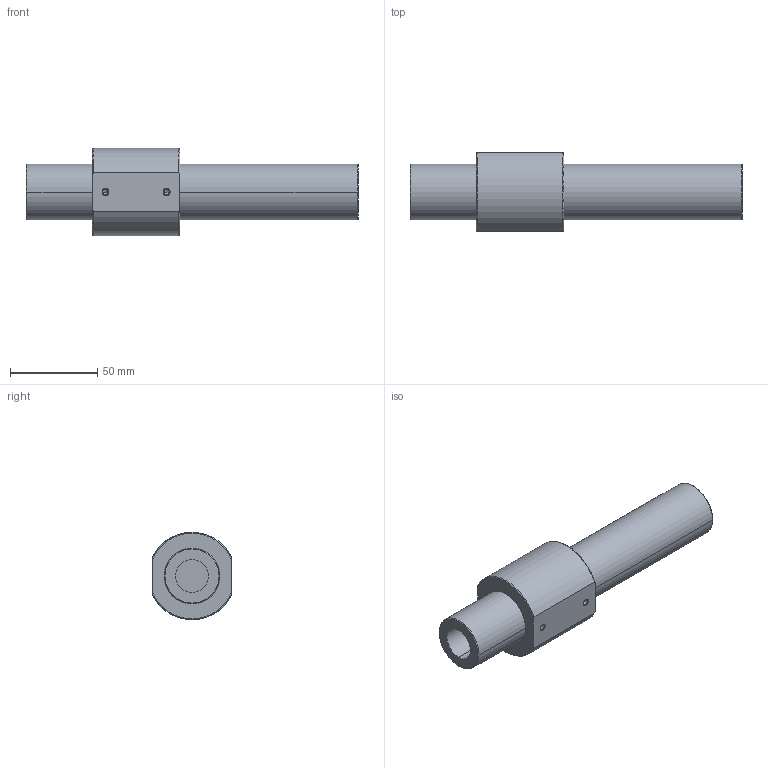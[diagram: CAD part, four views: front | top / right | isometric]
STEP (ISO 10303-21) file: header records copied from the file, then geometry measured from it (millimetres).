
FILE_DESCRIPTION (( 'STEP AP214' ), '1' );
FILE_NAME ('MT76.STEP', '2025-01-29T19:59:41', ( '' ), ( '' ), 'SwSTEP 2.0', 'SolidWorks 2018', '' );
FILE_SCHEMA (( 'AUTOMOTIVE_DESIGN' ));
Length unit declared in the file: millimetre
Products named in the file (1): MT76
Bounding box: 190 x 45 x 50 mm (x, y, z)
Volume: 183119.9 mm3; surface area: 30765 mm2
Topology: 1 solids, 1 shells, 57 faces, 130 edges, 80 vertices
Faces by surface type: cylinder 20, cone 14, torus 12, plane 11
Entity records: 1864 total; most frequent: CARTESIAN_POINT 508, DIRECTION 312, ORIENTED_EDGE 252, AXIS2_PLACEMENT_3D 136, EDGE_CURVE 126, VERTEX_POINT 80, CIRCLE 78, EDGE_LOOP 66
